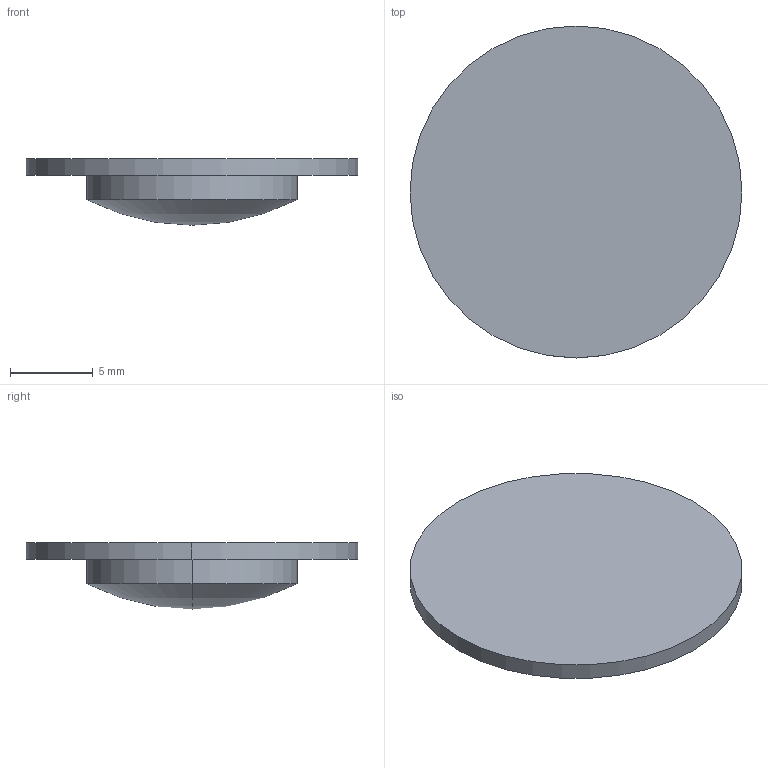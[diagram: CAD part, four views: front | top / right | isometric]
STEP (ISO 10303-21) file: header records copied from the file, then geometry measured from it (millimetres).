
FILE_DESCRIPTION(('STEP AP214'),'1');
FILE_NAME('LL-13-20.STEP','2020-03-09T17:41:06',(' '),(' '),'Spatial InterOp 3D',' ',' ');
FILE_SCHEMA(('AUTOMOTIVE_DESIGN { 1 0 10303 214 1 1 1 1 }'));
Length unit declared in the file: millimetre
Products named in the file (1): 1
Bounding box: 20 x 20 x 4 mm (x, y, z)
Volume: 598.1 mm3; surface area: 1010 mm2
Topology: 2 solids, 2 shells, 9 faces, 16 edges, 9 vertices
Faces by surface type: cylinder 4, plane 3, sphere 2
Entity records: 229 total; most frequent: DIRECTION 46, CARTESIAN_POINT 34, ORIENTED_EDGE 28, AXIS2_PLACEMENT_3D 21, EDGE_CURVE 14, CIRCLE 10, ADVANCED_FACE 9, FACE_OUTER_BOUND 9
